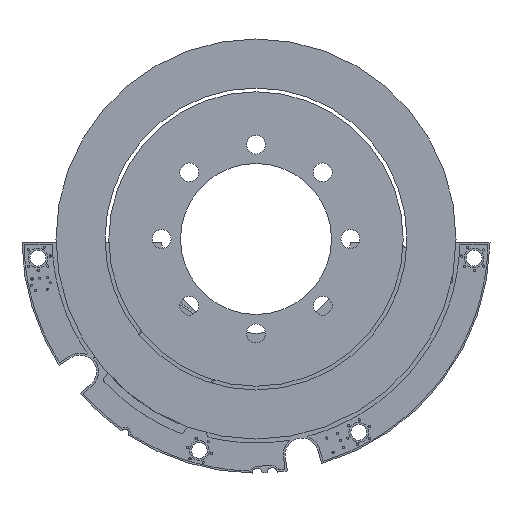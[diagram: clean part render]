
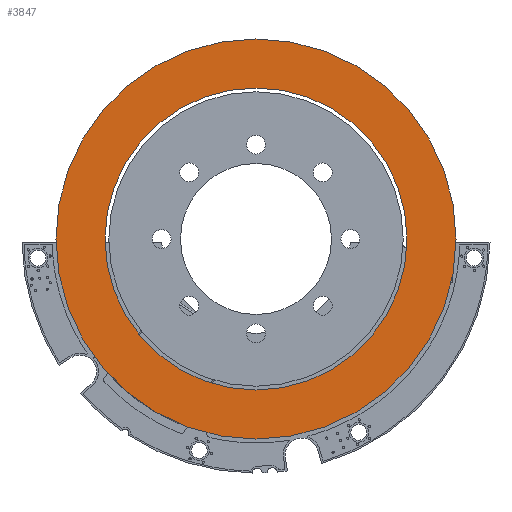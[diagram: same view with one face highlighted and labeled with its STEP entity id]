
A CAD part, front view. The second image highlights one B-rep face of the part: STEP entity #3847.
In plain terms, the highlighted planar face has unit normal (0, -1, 0).
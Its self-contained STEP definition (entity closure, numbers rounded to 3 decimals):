
#39 = EDGE_CURVE ( 'NONE', #36776, #24650, #22341, .T. ) ;
#228 = CARTESIAN_POINT ( 'NONE',  ( 0., -2., 0. ) ) ;
#455 = CIRCLE ( 'NONE', #19591, 26.5 ) ;
#930 = CARTESIAN_POINT ( 'NONE',  ( 0., -2., 0. ) ) ;
#1409 = ORIENTED_EDGE ( 'NONE', *, *, #6905, .T. ) ;
#2944 = EDGE_CURVE ( 'NONE', #3856, #3992, #455, .T. ) ;
#3368 = ORIENTED_EDGE ( 'NONE', *, *, #14899, .F. ) ;
#3465 = CARTESIAN_POINT ( 'NONE',  ( 0., -2., 0. ) ) ;
#3740 = FACE_BOUND ( 'NONE', #14699, .T. ) ;
#3847 = ADVANCED_FACE ( 'NONE', ( #3740, #9376 ), #9751, .F. ) ;
#3856 = VERTEX_POINT ( 'NONE', #18720 ) ;
#3992 = VERTEX_POINT ( 'NONE', #21693 ) ;
#6905 = EDGE_CURVE ( 'NONE', #24650, #36776, #31416, .T. ) ;
#7215 = CIRCLE ( 'NONE', #7830, 26.5 ) ;
#7830 = AXIS2_PLACEMENT_3D ( 'NONE', #12099, #31906, #28539 ) ;
#9376 = FACE_OUTER_BOUND ( 'NONE', #21021, .T. ) ;
#9751 = PLANE ( 'NONE',  #13587 ) ;
#12099 = CARTESIAN_POINT ( 'NONE',  ( 0., -2., 0. ) ) ;
#12739 = DIRECTION ( 'NONE',  ( 0., 0., 1. ) ) ;
#13587 = AXIS2_PLACEMENT_3D ( 'NONE', #930, #30114, #12739 ) ;
#14699 = EDGE_LOOP ( 'NONE', ( #26943, #1409 ) ) ;
#14899 = EDGE_CURVE ( 'NONE', #3992, #3856, #7215, .T. ) ;
#18720 = CARTESIAN_POINT ( 'NONE',  ( 0., -2., 26.5 ) ) ;
#19591 = AXIS2_PLACEMENT_3D ( 'NONE', #23305, #34724, #32075 ) ;
#21021 = EDGE_LOOP ( 'NONE', ( #29538, #3368 ) ) ;
#21693 = CARTESIAN_POINT ( 'NONE',  ( 0., -2., -26.5 ) ) ;
#22341 = CIRCLE ( 'NONE', #29497, 20. ) ;
#23051 = DIRECTION ( 'NONE',  ( 0., 0., 1. ) ) ;
#23305 = CARTESIAN_POINT ( 'NONE',  ( 0., -2., 0. ) ) ;
#23833 = CARTESIAN_POINT ( 'NONE',  ( 0., -2., 20. ) ) ;
#24355 = CARTESIAN_POINT ( 'NONE',  ( 0., -2., -20. ) ) ;
#24650 = VERTEX_POINT ( 'NONE', #24355 ) ;
#26099 = DIRECTION ( 'NONE',  ( 0., 0., 1. ) ) ;
#26943 = ORIENTED_EDGE ( 'NONE', *, *, #39, .T. ) ;
#28539 = DIRECTION ( 'NONE',  ( 0., 0., 1. ) ) ;
#28916 = DIRECTION ( 'NONE',  ( 0., 1., 0. ) ) ;
#29497 = AXIS2_PLACEMENT_3D ( 'NONE', #3465, #28916, #26099 ) ;
#29538 = ORIENTED_EDGE ( 'NONE', *, *, #2944, .F. ) ;
#30114 = DIRECTION ( 'NONE',  ( 0., 1., 0. ) ) ;
#31416 = CIRCLE ( 'NONE', #36212, 20. ) ;
#31906 = DIRECTION ( 'NONE',  ( 0., 1., 0. ) ) ;
#32075 = DIRECTION ( 'NONE',  ( 0., 0., 1. ) ) ;
#34296 = DIRECTION ( 'NONE',  ( 0., 1., 0. ) ) ;
#34724 = DIRECTION ( 'NONE',  ( 0., 1., 0. ) ) ;
#36212 = AXIS2_PLACEMENT_3D ( 'NONE', #228, #34296, #23051 ) ;
#36776 = VERTEX_POINT ( 'NONE', #23833 ) ;
